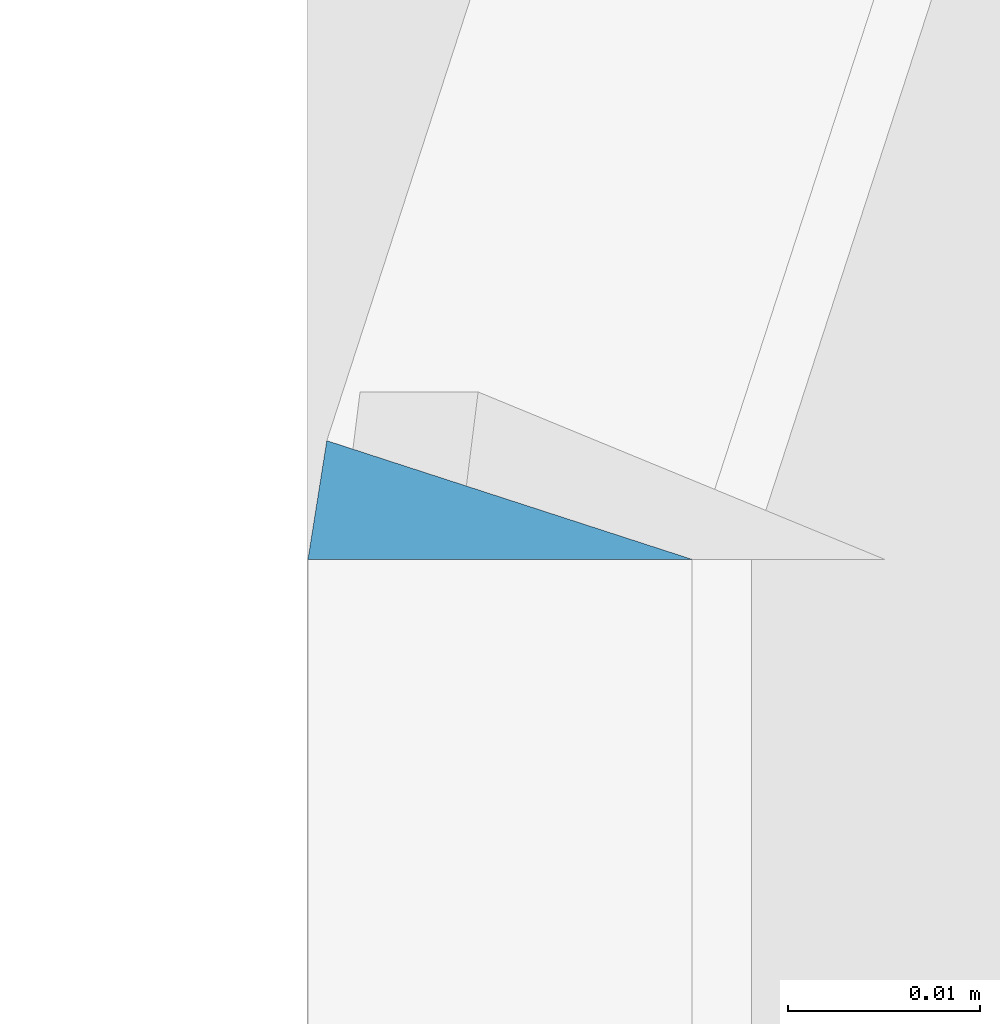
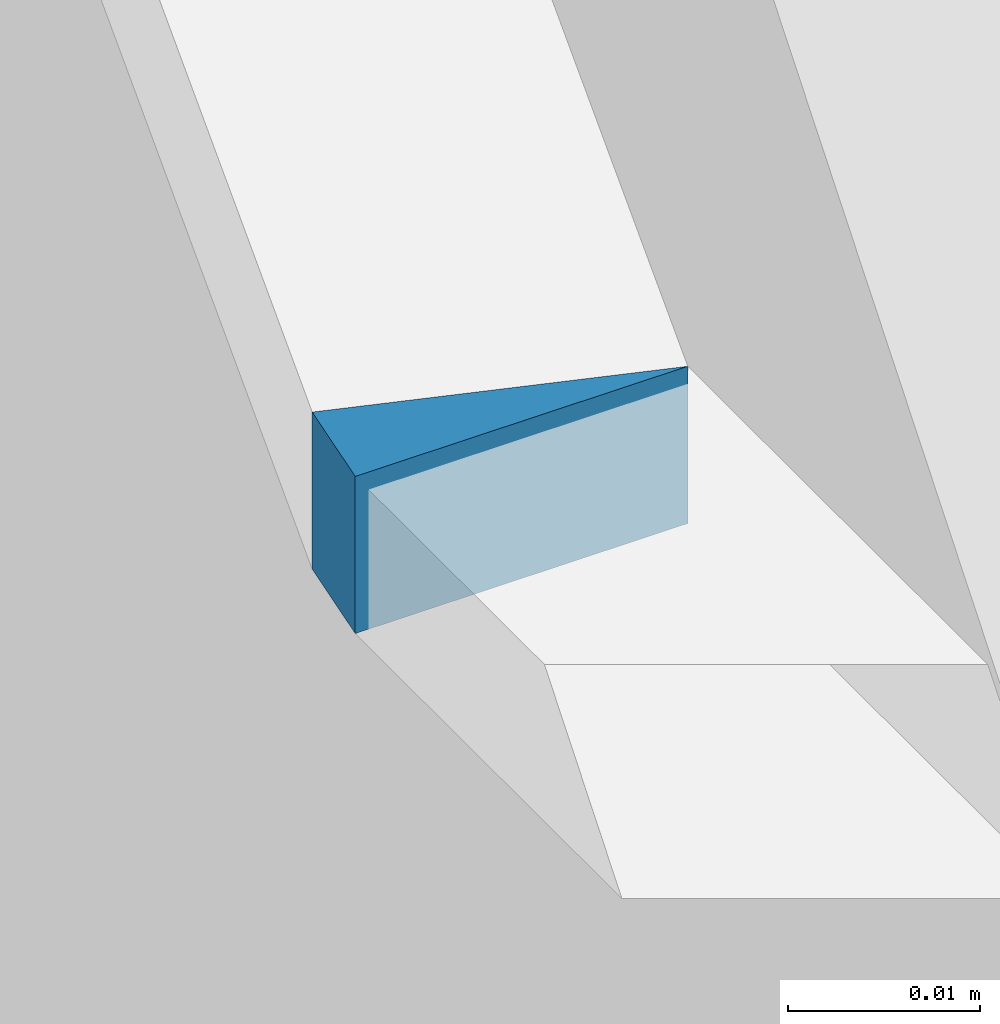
# One storey, part 321 of 583: 1 slab.
"""IFC2X3 building model written with IfcOpenShell, lengths in metres."""

import ifcopenshell
import ifcopenshell.guid

model = None  # the IFC model being written
_history = None  # IfcOwnerHistory: only IFC2X3 demands one
_inside = {}  # id of a spatial element -> (the spatial element, [elements in it])
_under = {}  # id of a project, library or spatial element -> (it, [spatial elements below it])
_declared = {}  # id of a project -> (the project, [libraries it declares])
_typed = {}  # id of a type object -> (the type object, [elements of that type])
_made_of = {}  # id of a material, layer set ... -> (it, [elements and type objects made of it])


def new_model(schema):
    """Start an empty IFC model of exactly this schema.

    Asked for "IFC4X3", IfcOpenShell would pick the latest addendum, in which some entities
    have other attributes; the version numbers below select the first issue.
    IFC2X3 requires an IfcOwnerHistory on every rooted entity: one is made here for all.
    """
    global model, _history
    if schema == "IFC4X3":
        model = ifcopenshell.file(schema_version=(4, 3, 0, 0))
    else:
        model = ifcopenshell.file(schema=schema)
    _inside.clear()
    _under.clear()
    _declared.clear()
    _typed.clear()
    _made_of.clear()
    _history = None
    if model.schema == "IFC2X3":
        org = make("IfcOrganization", Name="unknown")
        user = make(
            "IfcPersonAndOrganization",
            ThePerson=make("IfcPerson", FamilyName="unknown"),
            TheOrganization=org,
        )
        app = make(
            "IfcApplication",
            ApplicationDeveloper=org,
            Version="unknown",
            ApplicationFullName="unknown",
            ApplicationIdentifier="unknown",
        )
        _history = make(
            "IfcOwnerHistory",
            OwningUser=user,
            OwningApplication=app,
            ChangeAction="ADDED",
            CreationDate=0,
        )
    return model


def make(cls, **values):
    """One entity of the class cls with the attributes given. An attribute that is None is left unset."""
    return model.create_entity(
        cls, **{name: value for name, value in values.items() if value is not None}
    )


def entity(cls, *values):
    """Any entity or typed value of the class cls, its attributes in the order of the schema. None: left unset."""
    e = model.create_entity(cls)
    for i, value in enumerate(values):
        if value is not None:
            e[i] = value
    return e


def rooted(cls, **values):
    """An entity with a GlobalId (a new one), such as an element, a storey or a relation."""
    return make(cls, GlobalId=ifcopenshell.guid.new(), OwnerHistory=_history, **values)


def si_unit(unit_type, name, prefix=None):
    """IfcSIUnit, for example si_unit("LENGTHUNIT", "METRE", prefix="MILLI")."""
    return make("IfcSIUnit", UnitType=unit_type, Prefix=prefix, Name=name)


def converted_unit(unit_type, name, factor, base, dimensions=None, offset=None):
    """IfcConversionBasedUnit, such as the inch: factor (a typed value) times the base unit."""
    return make(
        "IfcConversionBasedUnit"
        if offset is None
        else "IfcConversionBasedUnitWithOffset",
        ConversionOffset=offset,
        Dimensions=None
        if dimensions is None
        else entity("IfcDimensionalExponents", *dimensions),
        UnitType=unit_type,
        Name=name,
        ConversionFactor=make(
            "IfcMeasureWithUnit", ValueComponent=factor, UnitComponent=base
        ),
    )


def derived_unit(unit_type, elements):
    """IfcDerivedUnit: a product of units, each with its exponent."""
    return make(
        "IfcDerivedUnit",
        Elements=[
            make("IfcDerivedUnitElement", Unit=unit, Exponent=power)
            for unit, power in elements
        ],
        UnitType=unit_type,
    )


def money_unit(currency):
    """IfcMonetaryUnit."""
    return make("IfcMonetaryUnit", Currency=currency)


def assignment(units):
    """IfcUnitAssignment: the units of a project."""
    return None if units is None else make("IfcUnitAssignment", Units=units)


def point(xyz):
    """IfcCartesianPoint."""
    return None if xyz is None else make("IfcCartesianPoint", Coordinates=xyz)


def direction(xyz):
    """IfcDirection."""
    return None if xyz is None else make("IfcDirection", DirectionRatios=xyz)


def frame(location, z_axis=None, x_axis=None):
    """IfcAxis2Placement3D, a coordinate frame: its origin and axes. An axis left out is left unset."""
    return make(
        "IfcAxis2Placement3D",
        Location=point(location),
        Axis=direction(z_axis),
        RefDirection=direction(x_axis),
    )


def origin_with_axes():
    """The frame at (0, 0, 0) with the z axis (0, 0, 1) and the x axis (1, 0, 0) written out."""
    return frame((0.0, 0.0, 0.0), z_axis=(0.0, 0.0, 1.0), x_axis=(1.0, 0.0, 0.0))


def place(relative_to, where):
    """IfcLocalPlacement: puts the frame where relative to a parent placement (None: the world)."""
    return make(
        "IfcLocalPlacement", PlacementRelTo=relative_to, RelativePlacement=where
    )


def context(
    kind, dimensions, precision=None, world=None, true_north=None, identifier=None
):
    """IfcGeometricRepresentationContext, for example the 3D "Model" context."""
    return make(
        "IfcGeometricRepresentationContext",
        ContextIdentifier=identifier,
        ContextType=kind,
        CoordinateSpaceDimension=dimensions,
        Precision=precision,
        WorldCoordinateSystem=world,
        TrueNorth=true_north,
    )


def subcontext(parent, identifier, kind, view, scale=None):
    """IfcGeometricRepresentationSubContext, for example "Body" below "Model"."""
    return make(
        "IfcGeometricRepresentationSubContext",
        ContextIdentifier=identifier,
        ContextType=kind,
        ParentContext=parent,
        TargetScale=scale,
        TargetView=view,
    )


def project(units=None, contexts=None):
    """IfcProject with its units and contexts."""
    return rooted(
        "IfcProject",
        Name="project",
        RepresentationContexts=contexts,
        UnitsInContext=assignment(units),
    )


def spatial(cls, under=None, at=None, **own):
    """A site, building, storey or space (cls), placed at a placement, below another one or the project."""
    s = rooted(cls, ObjectPlacement=at, **own)
    if under is not None:
        _under.setdefault(under.id(), (under, []))[1].append(s)
    return s


def faces_of(points, faces, orient=None, outer=None):
    """IfcFace entities. A face is a list of loops; a loop is a list of indices into points, from 0.

    orient and outer hold one flag for each loop. By default every Orientation is true, the
    first loop of a face is its IfcFaceOuterBound and the others are IfcFaceBound.
    """
    made = []
    for i, loops in enumerate(faces):
        bounds = []
        for j, loop in enumerate(loops):
            is_outer = j == 0 if outer is None else outer[i][j]
            bounds.append(
                make(
                    "IfcFaceOuterBound" if is_outer else "IfcFaceBound",
                    Bound=make("IfcPolyLoop", Polygon=[points[k] for k in loop]),
                    Orientation=True if orient is None else orient[i][j],
                )
            )
        made.append(make("IfcFace", Bounds=bounds))
    return made


def faceted_brep(points, faces, orient=None, outer=None, voids=None):
    """IfcFacetedBrep: a solid bounded by flat faces; with voids (closed shells), ...WithVoids."""
    shared = [point(p) for p in points]
    hull = make("IfcClosedShell", CfsFaces=faces_of(shared, faces, orient, outer))
    if voids is None:
        return make("IfcFacetedBrep", Outer=hull)
    return make(
        "IfcFacetedBrepWithVoids",
        Outer=hull,
        Voids=[
            make(cls, CfsFaces=faces_of(shared, fs, o, b)) for cls, fs, o, b in voids
        ],
    )


def shape(context_of_items, identifier, shape_type, items):
    """IfcShapeRepresentation: the items that make up one representation, for example the "Body"."""
    return make(
        "IfcShapeRepresentation",
        ContextOfItems=context_of_items,
        RepresentationIdentifier=identifier,
        RepresentationType=shape_type,
        Items=items,
    )


def material(Name=None, Category=None):
    """IfcMaterial."""
    return make("IfcMaterial", Name=Name, Category=Category)


def made_of(thing, what):
    """Note that an element or type object is made of a material, layer set ...; save() writes the relation."""
    if what is not None:
        _made_of.setdefault(what.id(), (what, []))[1].append(thing)
    return thing


def type_object(cls, material=None, **own):
    """A type object (cls), such as IfcWallType, which elements share."""
    return made_of(rooted(cls, **own), material)


def element(
    cls,
    number,
    at=None,
    inside=None,
    cuts=None,
    type_object=None,
    material=None,
    context=None,
    identifier="Body",
    shape_type=None,
    held_by="IfcProductDefinitionShape",
    body=None,
    shapes=None,
    **own,
):
    """One element of the class cls, such as IfcWall. Its Tag is "e" and its number.

    at: its placement. inside: the storey or other place that contains it. cuts: it is an
    opening in that element (IfcRelVoidsElement). A single representation is given by context,
    identifier, shape_type and body (its items); several are given by shapes. held_by: the class
    of the entity that holds the representations. save() writes the other relations.
    """
    e = rooted(cls, Tag="e%d" % number, ObjectPlacement=at, **own)
    if body is not None:
        shapes = [shape(context, identifier, shape_type, body)]
    if shapes is not None:
        e.Representation = make(held_by, Representations=shapes)
    if inside is not None:
        _inside.setdefault(inside.id(), (inside, []))[1].append(e)
    if cuts is not None:
        rooted(
            "IfcRelVoidsElement", RelatingBuildingElement=cuts, RelatedOpeningElement=e
        )
    if type_object is not None:
        _typed.setdefault(type_object.id(), (type_object, []))[1].append(e)
    return made_of(e, material)


def aggregate(whole, parts):
    """IfcRelAggregates: a whole, such as a stair, and the parts it consists of."""
    return rooted("IfcRelAggregates", RelatingObject=whole, RelatedObjects=parts)


def save(model, path):
    """Write the relations noted so far, then the file.

    IfcRelAggregates (storeys below a building ...), IfcRelContainedInSpatialStructure (elements
    in a storey), IfcRelDefinesByType, IfcRelAssociatesMaterial and IfcRelDeclares: one each for
    every whole, place, type object, material and project.
    """
    for whole, parts in _under.values():
        aggregate(whole, parts)
    for where, things in _inside.values():
        rooted(
            "IfcRelContainedInSpatialStructure",
            RelatedElements=things,
            RelatingStructure=where,
        )
    for kind, things in _typed.values():
        rooted("IfcRelDefinesByType", RelatedObjects=things, RelatingType=kind)
    for what, things in _made_of.values():
        rooted("IfcRelAssociatesMaterial", RelatedObjects=things, RelatingMaterial=what)
    for by, libraries in _declared.values():
        rooted("IfcRelDeclares", RelatingContext=by, RelatedDefinitions=libraries)
    model.write(path)


model = new_model("IFC2X3")

# Units and contexts
model_context = context("Model", 3, precision=1e-05, world=origin_with_axes(), true_north=direction((0.0, 1.0)))
body_context = subcontext(model_context, "Body", "Model", "MODEL_VIEW", scale=1.0)
ifc_project = project(units=[si_unit("LENGTHUNIT", "METRE"), si_unit("AREAUNIT", "SQUARE_METRE"), si_unit("VOLUMEUNIT", "CUBIC_METRE"), si_unit("ABSORBEDDOSEUNIT", "GRAY"), si_unit("AMOUNTOFSUBSTANCEUNIT", "MOLE"), si_unit("DOSEEQUIVALENTUNIT", "SIEVERT"), si_unit("ELECTRICCAPACITANCEUNIT", "FARAD"), si_unit("ELECTRICCHARGEUNIT", "COULOMB"), si_unit("ELECTRICCONDUCTANCEUNIT", "SIEMENS"), si_unit("ELECTRICCURRENTUNIT", "AMPERE"), si_unit("ELECTRICRESISTANCEUNIT", "OHM"), si_unit("ELECTRICVOLTAGEUNIT", "VOLT"), si_unit("ENERGYUNIT", "JOULE"), si_unit("FORCEUNIT", "NEWTON"), si_unit("FREQUENCYUNIT", "HERTZ"), si_unit("ILLUMINANCEUNIT", "LUX"), si_unit("INDUCTANCEUNIT", "HENRY"), si_unit("LUMINOUSFLUXUNIT", "LUMEN"), si_unit("LUMINOUSINTENSITYUNIT", "CANDELA"), si_unit("MAGNETICFLUXDENSITYUNIT", "TESLA"), si_unit("MAGNETICFLUXUNIT", "WEBER"), si_unit("MASSUNIT", "GRAM"), converted_unit("PLANEANGLEUNIT", "degree", entity("IfcReal", 0.0174532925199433), si_unit("PLANEANGLEUNIT", "RADIAN"), dimensions=[0, 0, 0, 0, 0, 0, 0]), si_unit("POWERUNIT", "WATT"), si_unit("PRESSUREUNIT", "PASCAL"), si_unit("RADIOACTIVITYUNIT", "BECQUEREL"), si_unit("SOLIDANGLEUNIT", "STERADIAN"), si_unit("THERMODYNAMICTEMPERATUREUNIT", "KELVIN"), si_unit("TIMEUNIT", "SECOND"), derived_unit("ACCELERATIONUNIT", [(si_unit("LENGTHUNIT", "METRE"), 1), (si_unit("TIMEUNIT", "SECOND"), -2)]), derived_unit("ANGULARVELOCITYUNIT", [(converted_unit("PLANEANGLEUNIT", "degree", entity("IfcReal", 0.0174532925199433), si_unit("PLANEANGLEUNIT", "RADIAN"), dimensions=[0, 0, 0, 0, 0, 0, 0]), 1), (si_unit("TIMEUNIT", "SECOND"), -1)]), derived_unit("CURVATUREUNIT", [(converted_unit("PLANEANGLEUNIT", "degree", entity("IfcReal", 0.0174532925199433), si_unit("PLANEANGLEUNIT", "RADIAN"), dimensions=[0, 0, 0, 0, 0, 0, 0]), 1), (si_unit("LENGTHUNIT", "METRE"), -1)]), derived_unit("DYNAMICVISCOSITYUNIT", [(si_unit("PRESSUREUNIT", "PASCAL"), 1), (si_unit("TIMEUNIT", "SECOND"), 1)]), derived_unit("HEATFLUXDENSITYUNIT", [(si_unit("POWERUNIT", "WATT"), 1), (si_unit("LENGTHUNIT", "METRE"), -2)]), derived_unit("HEATINGVALUEUNIT", [(si_unit("ENERGYUNIT", "JOULE"), 1), (si_unit("MASSUNIT", "GRAM"), -1)]), derived_unit("INTEGERCOUNTRATEUNIT", [(si_unit("TIMEUNIT", "SECOND"), -1)]), derived_unit("IONCONCENTRATIONUNIT", [(si_unit("MASSUNIT", "GRAM"), 1), (si_unit("VOLUMEUNIT", "CUBIC_METRE"), -1)]), derived_unit("ISOTHERMALMOISTURECAPACITYUNIT", [(si_unit("VOLUMEUNIT", "CUBIC_METRE"), 1), (si_unit("MASSUNIT", "GRAM"), -1)]), derived_unit("KINEMATICVISCOSITYUNIT", [(si_unit("AREAUNIT", "SQUARE_METRE"), 1), (si_unit("TIMEUNIT", "SECOND"), -1)]), derived_unit("LINEARFORCEUNIT", [(si_unit("FORCEUNIT", "NEWTON"), 1), (si_unit("LENGTHUNIT", "METRE"), -1)]), derived_unit("LINEARMOMENTUNIT", [(si_unit("FORCEUNIT", "NEWTON"), 1), (si_unit("LENGTHUNIT", "METRE"), -1)]), derived_unit("LINEARSTIFFNESSUNIT", [(si_unit("FORCEUNIT", "NEWTON"), 1), (si_unit("LENGTHUNIT", "METRE"), -1)]), derived_unit("LINEARVELOCITYUNIT", [(si_unit("LENGTHUNIT", "METRE"), 1), (si_unit("TIMEUNIT", "SECOND"), -1)]), derived_unit("LUMINOUSINTENSITYDISTRIBUTIONUNIT", [(si_unit("LUMINOUSINTENSITYUNIT", "CANDELA"), 1), (si_unit("LUMINOUSFLUXUNIT", "LUMEN"), -1)]), derived_unit("MASSDENSITYUNIT", [(si_unit("MASSUNIT", "GRAM"), 1), (si_unit("VOLUMEUNIT", "CUBIC_METRE"), -1)]), derived_unit("MASSFLOWRATEUNIT", [(si_unit("MASSUNIT", "GRAM"), 1), (si_unit("TIMEUNIT", "SECOND"), -1)]), derived_unit("MASSPERLENGTHUNIT", [(si_unit("MASSUNIT", "GRAM"), 1), (si_unit("LENGTHUNIT", "METRE"), -1)]), derived_unit("MODULUSOFELASTICITYUNIT", [(si_unit("FORCEUNIT", "NEWTON"), 1), (si_unit("AREAUNIT", "SQUARE_METRE"), -1)]), derived_unit("MODULUSOFLINEARSUBGRADEREACTIONUNIT", [(si_unit("FORCEUNIT", "NEWTON"), 1), (si_unit("LENGTHUNIT", "METRE"), -2)]), derived_unit("MODULUSOFROTATIONALSUBGRADEREACTIONUNIT", [(si_unit("FORCEUNIT", "NEWTON"), 1), (si_unit("LENGTHUNIT", "METRE"), 1)]), derived_unit("MODULUSOFSUBGRADEREACTIONUNIT", [(si_unit("FORCEUNIT", "NEWTON"), 1), (si_unit("VOLUMEUNIT", "CUBIC_METRE"), -1)]), derived_unit("MOISTUREDIFFUSIVITYUNIT", [(si_unit("VOLUMEUNIT", "CUBIC_METRE"), 1), (si_unit("TIMEUNIT", "SECOND"), -1)]), derived_unit("MOLECULARWEIGHTUNIT", [(si_unit("MASSUNIT", "GRAM"), 1), (si_unit("AMOUNTOFSUBSTANCEUNIT", "MOLE"), -1)]), derived_unit("PLANARFORCEUNIT", [(si_unit("FORCEUNIT", "NEWTON"), 1), (si_unit("LENGTHUNIT", "METRE"), -2)]), derived_unit("ROTATIONALFREQUENCYUNIT", [(si_unit("TIMEUNIT", "SECOND"), -1)]), derived_unit("ROTATIONALMASSUNIT", [(si_unit("MASSUNIT", "GRAM"), 1), (si_unit("LENGTHUNIT", "METRE"), 2)]), derived_unit("ROTATIONALSTIFFNESSUNIT", [(si_unit("FORCEUNIT", "NEWTON"), 1), (si_unit("LENGTHUNIT", "METRE"), 1), (converted_unit("PLANEANGLEUNIT", "degree", entity("IfcReal", 0.0174532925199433), si_unit("PLANEANGLEUNIT", "RADIAN"), dimensions=[0, 0, 0, 0, 0, 0, 0]), -1)]), derived_unit("SECTIONAREAINTEGRALUNIT", [(si_unit("LENGTHUNIT", "METRE"), 5)]), derived_unit("SECTIONMODULUSUNIT", [(si_unit("LENGTHUNIT", "METRE"), 3)]), derived_unit("SHEARMODULUSUNIT", [(si_unit("FORCEUNIT", "NEWTON"), 1), (si_unit("AREAUNIT", "SQUARE_METRE"), -1)]), derived_unit("SOUNDPOWERUNIT", [(si_unit("ENERGYUNIT", "JOULE"), 1), (si_unit("TIMEUNIT", "SECOND"), -1)]), derived_unit("SPECIFICHEATCAPACITYUNIT", [(si_unit("FORCEUNIT", "NEWTON"), 1), (si_unit("MASSUNIT", "GRAM"), -1), (si_unit("THERMODYNAMICTEMPERATUREUNIT", "KELVIN"), -1)]), derived_unit("TEMPERATUREGRADIENTUNIT", [(si_unit("THERMODYNAMICTEMPERATUREUNIT", "KELVIN"), 1), (si_unit("LENGTHUNIT", "METRE"), -1)]), derived_unit("THERMALADMITTANCEUNIT", [(si_unit("POWERUNIT", "WATT"), 1), (si_unit("AREAUNIT", "SQUARE_METRE"), -1), (si_unit("THERMODYNAMICTEMPERATUREUNIT", "KELVIN"), -1)]), derived_unit("THERMALCONDUCTANCEUNIT", [(si_unit("POWERUNIT", "WATT"), 1), (si_unit("LENGTHUNIT", "METRE"), -1), (si_unit("THERMODYNAMICTEMPERATUREUNIT", "KELVIN"), -1)]), derived_unit("THERMALEXPANSIONCOEFFICIENTUNIT", [(si_unit("THERMODYNAMICTEMPERATUREUNIT", "KELVIN"), -1)]), derived_unit("THERMALRESISTANCEUNIT", [(si_unit("AREAUNIT", "SQUARE_METRE"), 1), (si_unit("POWERUNIT", "WATT"), -1)]), derived_unit("THERMALTRANSMITTANCEUNIT", [(si_unit("POWERUNIT", "WATT"), 1), (si_unit("AREAUNIT", "SQUARE_METRE"), -1), (si_unit("THERMODYNAMICTEMPERATUREUNIT", "KELVIN"), -1)]), derived_unit("TORQUEUNIT", [(si_unit("FORCEUNIT", "NEWTON"), 1), (si_unit("LENGTHUNIT", "METRE"), 1)]), derived_unit("VAPORPERMEABILITYUNIT", [(si_unit("MASSUNIT", "GRAM"), 1), (si_unit("TIMEUNIT", "SECOND"), -1)]), derived_unit("VOLUMETRICFLOWRATEUNIT", [(si_unit("VOLUMEUNIT", "CUBIC_METRE"), 1), (si_unit("TIMEUNIT", "SECOND"), -1)]), derived_unit("WARPINGCONSTANTUNIT", [(si_unit("LENGTHUNIT", "METRE"), 6)]), derived_unit("WARPINGMOMENTUNIT", [(si_unit("FORCEUNIT", "NEWTON"), 1), (si_unit("LENGTHUNIT", "METRE"), 2)]), money_unit("GBP")], contexts=[model_context])

# Site, building, storey
site_placement = place(None, origin_with_axes())
site = spatial("IfcSite", under=ifc_project, at=site_placement, Name="Site", CompositionType="ELEMENT")
building_placement = place(site_placement, origin_with_axes())
building = spatial("IfcBuilding", under=site, at=building_placement, Name="Building01", CompositionType="ELEMENT")
storey_placement = place(building_placement, frame((0.0, 0.0, 20.78), z_axis=(0.0, 0.0, 1.0), x_axis=(1.0, 0.0, 0.0)))
storey = spatial("IfcBuildingStorey", under=building, at=storey_placement, Name="RL", CompositionType="ELEMENT", Elevation=20.78)

# Slab
ifc_material = material(Name="A_BSUK_Roofs")
slab_type = type_object("IfcSlabType", Name="A-FloorsSlabs A_BSUK_Slabs", PredefinedType="FLOOR")
slab_placement = place(storey_placement, frame((0.500979, 16.280608, -13.844976), z_axis=(0.0, 1.0, 0.0), x_axis=(0.0, 0.0, 1.0)))
element("IfcSlab", 1, at=slab_placement, inside=storey, type_object=slab_type, material=ifc_material, Name="A-FloorsSlabs A_BSUK_Slabs", ObjectType="A-FloorsSlabs A_BSUK_Slabs", context=body_context, shape_type="Brep", body=[
    faceted_brep([(0.0, 0.0, 0.0), (-0.01, 0.0, 0.0), (-0.01, -0.000979, -0.00618), (0.0, -0.000979, -0.00618), (-0.01, 0.019021, -0.00618), (0.0, 0.019021, -0.00618)], [[[0, 1, 2, 3]], [[3, 2, 4, 5]], [[5, 4, 1, 0]], [[1, 4, 2]], [[3, 5, 0]]]),
])

save(model, "model.ifc")
